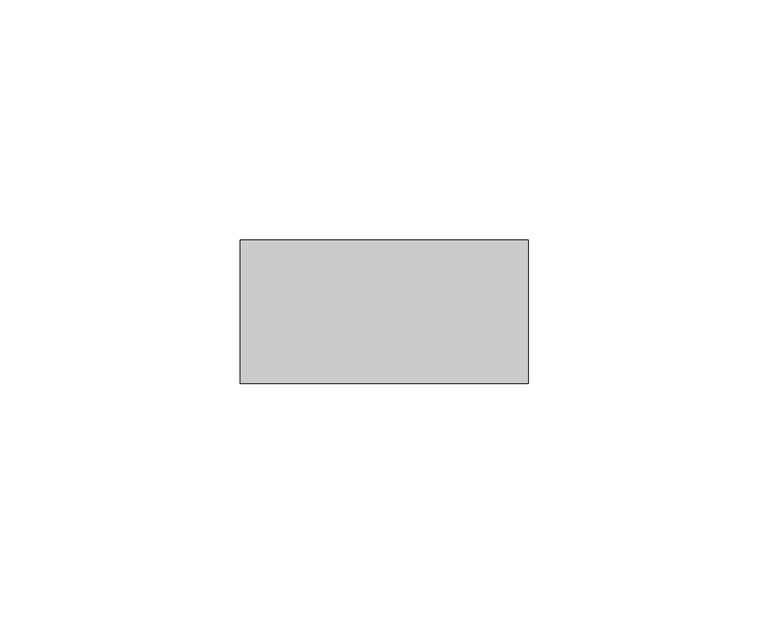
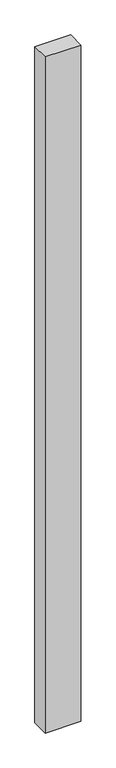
"""IFC4 building model written with IfcOpenShell, lengths in millimetres: member geometry, Прямоугольный импост : Квадрат 30 мм."""

from ifc_helpers import new_model, si_unit, frame, origin, place, context, project, spatial, polyline, outline, extrude, source, transform, mapped, element, save


def member_986bd5e0(model_context):
    return source(origin(), model_context, "Body", "SweptSolid", [
        extrude(outline(polyline([(30.0, 15.0), (30.0, -15.0), (-30.0, -15.0), (-30.0, 15.0), (30.0, 15.0)])), frame((0.0, 0.0, -1200.0), z_axis=(0.0, 0.0, 1.0), x_axis=(1.0, 0.0, 0.0)), (0.0, 0.0, 1.0), 1200.0),
    ])


if __name__ == "__main__":
    model = new_model("IFC4")
    model_context = context("Model", 3, world=origin())
    ifc_project = project(units=[si_unit("LENGTHUNIT", "METRE", prefix="MILLI")], contexts=[model_context])
    site = spatial("IfcSite", under=ifc_project)
    building = spatial("IfcBuilding", under=site)
    placement = place(None, origin())
    member_shape = member_986bd5e0(model_context)
    element("IfcMember", 1, ObjectType="Прямоугольный импост : Квадрат 30 мм", at=placement, inside=building, context=model_context, shape_type="MappedRepresentation", body=[
        mapped(member_shape, transform((0.0, 0.0, 0.0), x_axis=(1.0, 0.0, 0.0), y_axis=(0.0, 1.0, 0.0), z_axis=(0.0, 0.0, 1.0))),
    ])
    save(model, "model.ifc")
